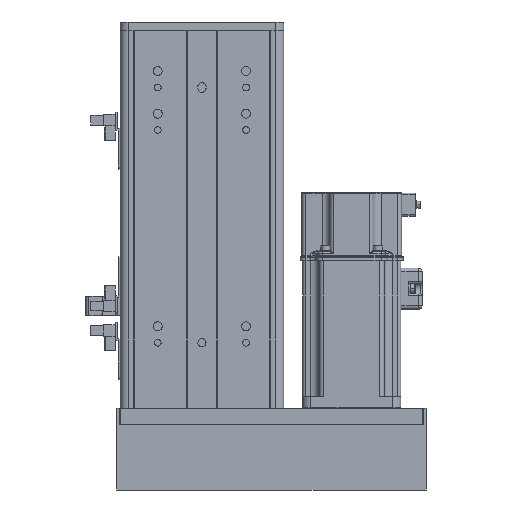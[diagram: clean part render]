
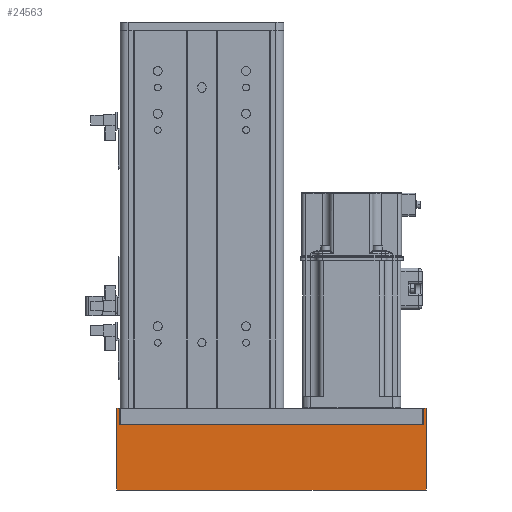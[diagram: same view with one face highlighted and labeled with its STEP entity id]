
A CAD part, front view. The second image highlights one B-rep face of the part: STEP entity #24563.
In plain terms, the highlighted planar face has unit normal (0, -1, 0).
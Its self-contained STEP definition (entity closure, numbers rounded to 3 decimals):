
#680 = VECTOR ( 'NONE', #50875, 1000. ) ;
#1252 = PLANE ( 'NONE',  #35498 ) ;
#2443 = CARTESIAN_POINT ( 'NONE',  ( 93., -35.5, 48.4 ) ) ;
#4049 = FACE_OUTER_BOUND ( 'NONE', #36798, .T. ) ;
#4795 = ORIENTED_EDGE ( 'NONE', *, *, #43856, .F. ) ;
#5483 = DIRECTION ( 'NONE',  ( 0., 0., -1. ) ) ;
#6585 = LINE ( 'NONE', #37929, #49887 ) ;
#7753 = VECTOR ( 'NONE', #67228, 1000. ) ;
#8297 = CARTESIAN_POINT ( 'NONE',  ( 94.6, -35.5, 50. ) ) ;
#9827 = VERTEX_POINT ( 'NONE', #35963 ) ;
#10905 = ORIENTED_EDGE ( 'NONE', *, *, #28826, .F. ) ;
#11066 = DIRECTION ( 'NONE',  ( 0., 1., 0. ) ) ;
#11294 = EDGE_CURVE ( 'NONE', #9827, #34708, #46379, .T. ) ;
#11470 = VERTEX_POINT ( 'NONE', #64631 ) ;
#11732 = VECTOR ( 'NONE', #42745, 1000. ) ;
#12996 = EDGE_CURVE ( 'NONE', #23580, #61130, #31534, .T. ) ;
#18650 = CARTESIAN_POINT ( 'NONE',  ( -94.4, -35.5, 48.4 ) ) ;
#19372 = CARTESIAN_POINT ( 'NONE',  ( -92.8, -35.5, 50. ) ) ;
#19926 = EDGE_CURVE ( 'NONE', #60206, #61130, #56150, .T. ) ;
#20216 = CARTESIAN_POINT ( 'NONE',  ( -92.8, -35.5, 0. ) ) ;
#20999 = ORIENTED_EDGE ( 'NONE', *, *, #27458, .F. ) ;
#21840 = CARTESIAN_POINT ( 'NONE',  ( 93., -35.5, 10. ) ) ;
#23082 = LINE ( 'NONE', #2443, #37801 ) ;
#23580 = VERTEX_POINT ( 'NONE', #66377 ) ;
#24175 = ORIENTED_EDGE ( 'NONE', *, *, #11294, .F. ) ;
#24563 = ADVANCED_FACE ( 'NONE', ( #4049 ), #1252, .F. ) ;
#25670 = ORIENTED_EDGE ( 'NONE', *, *, #28072, .F. ) ;
#26866 = DIRECTION ( 'NONE',  ( 0., 0., 1. ) ) ;
#27458 = EDGE_CURVE ( 'NONE', #39430, #61870, #23082, .T. ) ;
#27691 = CARTESIAN_POINT ( 'NONE',  ( -92.8, -35.5, 0. ) ) ;
#27957 = VECTOR ( 'NONE', #44663, 1000. ) ;
#28072 = EDGE_CURVE ( 'NONE', #11470, #60206, #58115, .T. ) ;
#28826 = EDGE_CURVE ( 'NONE', #23580, #39430, #6585, .T. ) ;
#29469 = DIRECTION ( 'NONE',  ( 0., 0., 1. ) ) ;
#31534 = LINE ( 'NONE', #34712, #42162 ) ;
#32345 = CARTESIAN_POINT ( 'NONE',  ( -92.8, -35.5, 48.4 ) ) ;
#32907 = DIRECTION ( 'NONE',  ( -1., 0., 0. ) ) ;
#34073 = ORIENTED_EDGE ( 'NONE', *, *, #19926, .F. ) ;
#34708 = VERTEX_POINT ( 'NONE', #27691 ) ;
#34712 = CARTESIAN_POINT ( 'NONE',  ( 94.6, -35.5, 48.4 ) ) ;
#35498 = AXIS2_PLACEMENT_3D ( 'NONE', #32345, #11066, #26866 ) ;
#35560 = LINE ( 'NONE', #20216, #7753 ) ;
#35963 = CARTESIAN_POINT ( 'NONE',  ( -92.8, -35.5, 10. ) ) ;
#36767 = CARTESIAN_POINT ( 'NONE',  ( -92.8, -35.5, 48.4 ) ) ;
#36798 = EDGE_LOOP ( 'NONE', ( #20999, #10905, #59062, #34073, #25670, #4795, #24175, #39458 ) ) ;
#37460 = CARTESIAN_POINT ( 'NONE',  ( -92.8, -35.5, 10. ) ) ;
#37801 = VECTOR ( 'NONE', #59933, 1000. ) ;
#37929 = CARTESIAN_POINT ( 'NONE',  ( -92.8, -35.5, 0. ) ) ;
#39430 = VERTEX_POINT ( 'NONE', #54434 ) ;
#39458 = ORIENTED_EDGE ( 'NONE', *, *, #42778, .F. ) ;
#39535 = LINE ( 'NONE', #37460, #11732 ) ;
#42162 = VECTOR ( 'NONE', #29469, 1000. ) ;
#42745 = DIRECTION ( 'NONE',  ( -1., 0., 0. ) ) ;
#42778 = EDGE_CURVE ( 'NONE', #61870, #9827, #39535, .T. ) ;
#43856 = EDGE_CURVE ( 'NONE', #34708, #11470, #35560, .T. ) ;
#44663 = DIRECTION ( 'NONE',  ( 0., 0., 1. ) ) ;
#46379 = LINE ( 'NONE', #36767, #48013 ) ;
#48013 = VECTOR ( 'NONE', #5483, 1000. ) ;
#49887 = VECTOR ( 'NONE', #32907, 1000. ) ;
#50709 = CARTESIAN_POINT ( 'NONE',  ( -94.4, -35.5, 50. ) ) ;
#50875 = DIRECTION ( 'NONE',  ( 1., 0., 0. ) ) ;
#54434 = CARTESIAN_POINT ( 'NONE',  ( 93., -35.5, 0. ) ) ;
#56150 = LINE ( 'NONE', #19372, #680 ) ;
#58115 = LINE ( 'NONE', #18650, #27957 ) ;
#59062 = ORIENTED_EDGE ( 'NONE', *, *, #12996, .T. ) ;
#59933 = DIRECTION ( 'NONE',  ( 0., 0., 1. ) ) ;
#60206 = VERTEX_POINT ( 'NONE', #50709 ) ;
#61130 = VERTEX_POINT ( 'NONE', #8297 ) ;
#61870 = VERTEX_POINT ( 'NONE', #21840 ) ;
#64631 = CARTESIAN_POINT ( 'NONE',  ( -94.4, -35.5, 0. ) ) ;
#66377 = CARTESIAN_POINT ( 'NONE',  ( 94.6, -35.5, 0. ) ) ;
#67228 = DIRECTION ( 'NONE',  ( -1., 0., 0. ) ) ;
